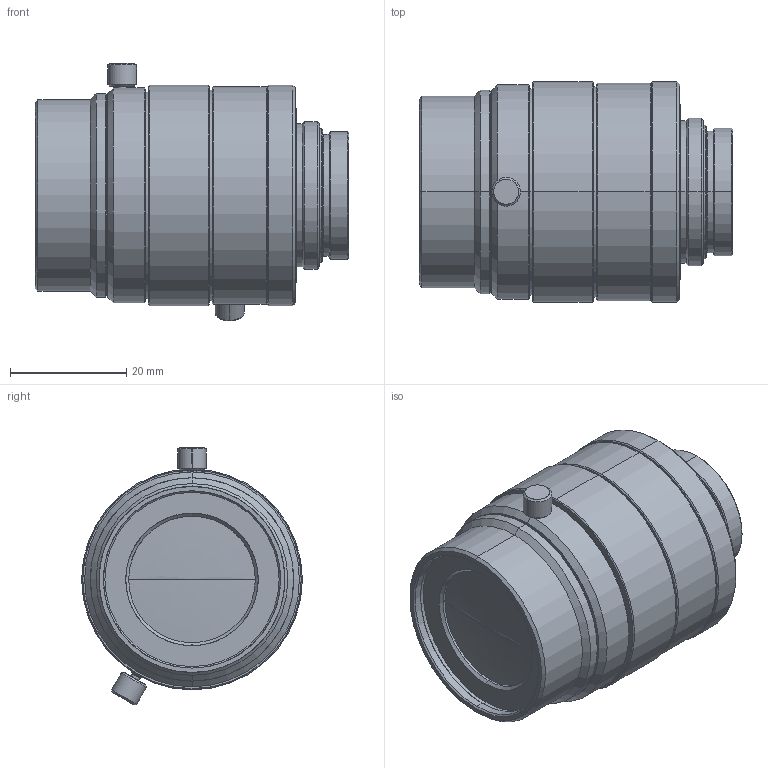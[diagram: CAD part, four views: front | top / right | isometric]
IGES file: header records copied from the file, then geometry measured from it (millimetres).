
Start section: SolidWorks IGES file using analytic representation for surfaces
Global section: file name: C:\Users\miura_vst\Desktop\H1價僗曄峏\VS-1614H1N.IGS; native system: SolidWorks 2016; preprocessor: SolidWorks 2016; author: miura_vst; date: 161208.130433; units: millimetre
Bounding box: 54.04 x 38 x 44.41 mm (x, y, z)
Surface area: 9509 mm2 (no closed solid volume)
Topology: 0 solids, 0 shells, 134 faces, 2404 edges, 2402 vertices
Faces by surface type: revolution 112, bspline 22
